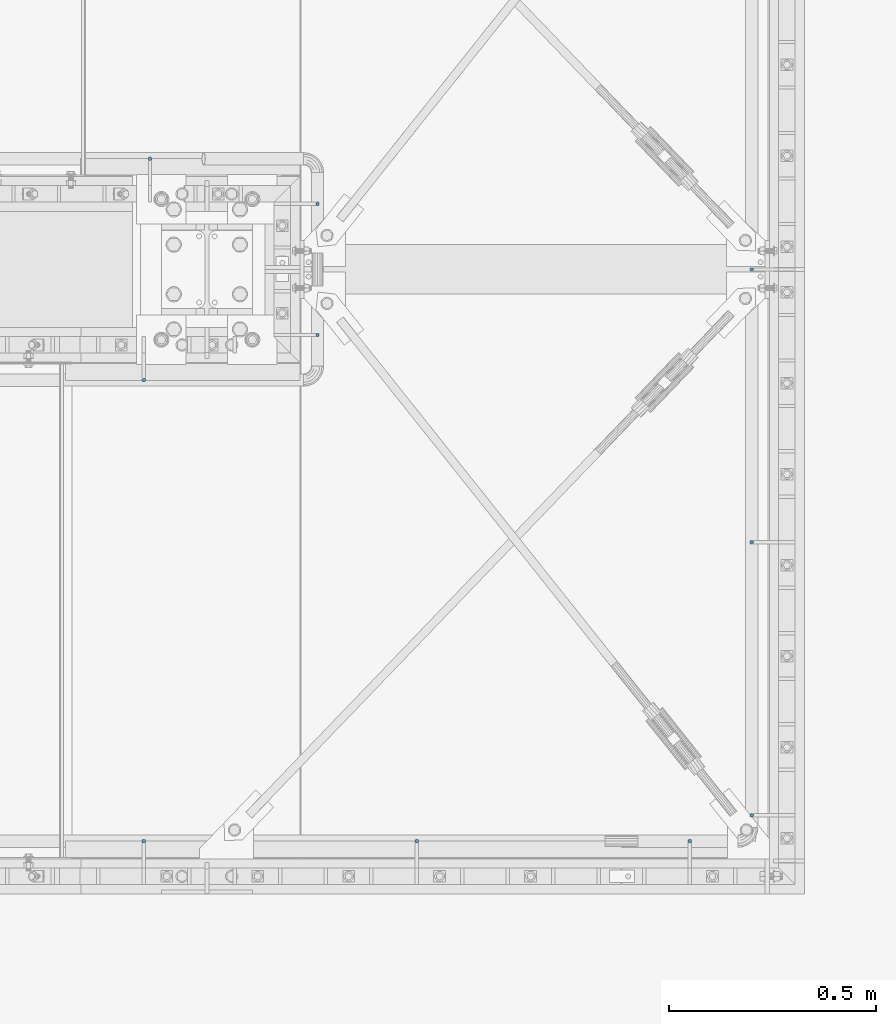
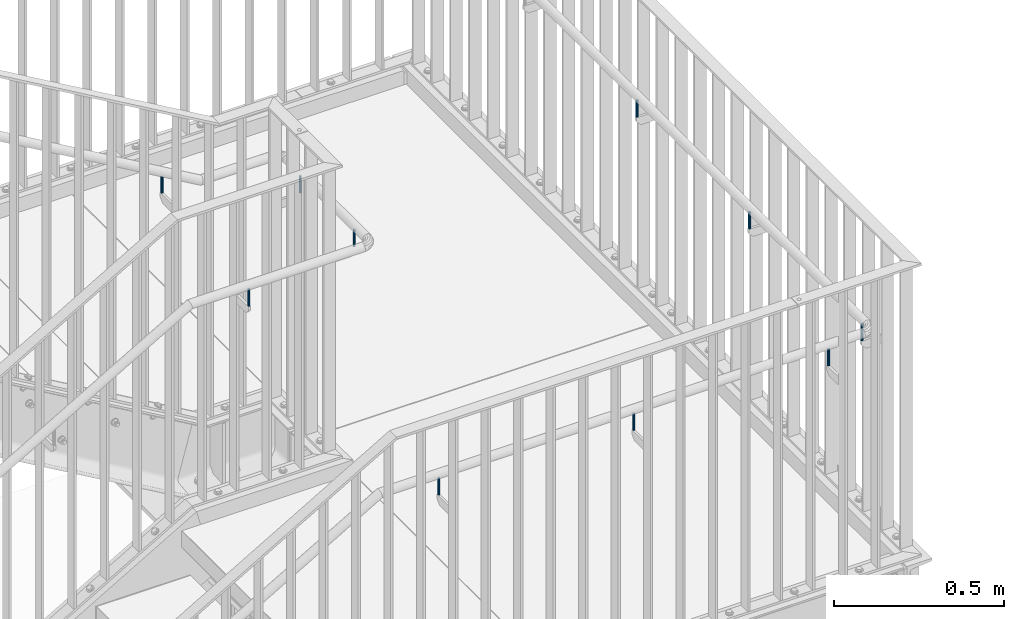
# One storey, part 9 of 145: 10 columns, 1 opening.
"""IFC2X3 building model written with IfcOpenShell, lengths in millimetres."""

from ifc_helpers import new_model, entity, si_unit, converted_unit, frame, origin, origin_with_axes, origin_2d, place, context, project, spatial, polyline, circle, outline, extrude, material, element, save


model = new_model("IFC2X3")

# Units and contexts
model_context = context("Model", 3, precision=1e-09, world=origin_with_axes())
ifc_project = project(units=[si_unit("LENGTHUNIT", "METRE", prefix="MILLI"), si_unit("AREAUNIT", "SQUARE_METRE"), si_unit("VOLUMEUNIT", "CUBIC_METRE"), converted_unit("PLANEANGLEUNIT", "DEGREE", entity("IfcPlaneAngleMeasure", 0.01745329), si_unit("PLANEANGLEUNIT", "RADIAN"), dimensions=[0, 0, 0, 0, 0, 0, 0])], contexts=[model_context])

# Site, building, storey
site_placement = place(None, origin_with_axes())
site = spatial("IfcSite", under=ifc_project, at=site_placement, Name="BZ1 Grund- und Mittelschule 85716 Unterschlei?heim", CompositionType="ELEMENT")
building_placement = place(site_placement, origin_with_axes())
building = spatial("IfcBuilding", under=site, at=building_placement, Name="Struktur 1", CompositionType="ELEMENT")
storey_placement = place(building_placement, origin_with_axes())
storey = spatial("IfcBuildingStorey", under=building, at=storey_placement, Name="Default Storey", CompositionType="ELEMENT", Elevation=0.0)

# Columns
ifc_material = material(Name="1.4301")
column_1_placement = place(None, frame((20058.545893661, -1962.502, 2323.636364), z_axis=(0.0, 0.0, 1.0), x_axis=(0.0, 1.0, 0.0)))
element("IfcColumn", 1, at=column_1_placement, inside=storey, material=ifc_material, Name="-", ObjectType="-", context=model_context, shape_type="SweptSolid", body=[
    extrude(circle(Radius=4.0, at=origin_2d()), origin(), (0.0, 0.0, 1.0), 60.0),
])
column_2_placement = place(None, frame((20718.545893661, -3077.502, 2323.636364), z_axis=(0.0, 0.0, -1.0), x_axis=(0.0, -1.0, 0.0)))
element("IfcColumn", 2, at=column_2_placement, inside=storey, material=ifc_material, Name="-", ObjectType="-", context=model_context, shape_type="SweptSolid", body=[
    extrude(circle(Radius=4.0, at=origin_2d()), origin(), (0.0, 0.0, -1.0), 60.0),
])

# Column, opening
column_3_placement = place(None, frame((20073.141490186, -1427.506106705, 2399.180800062), z_axis=(0.0, 0.0, 1.0), x_axis=(0.0, -1.0, 0.0)))
column_3 = element("IfcColumn", 3, at=column_3_placement, inside=storey, material=ifc_material, Name="-", ObjectType="-", context=model_context, shape_type="SweptSolid", body=[
    extrude(circle(Radius=4.0, at=origin_2d()), origin(), (0.0, 0.0, 1.0), 60.0),
])
opening_placement = place(column_3_placement, frame((-104.1, 13.305390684, 49.935677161), z_axis=(-1.0, 0.0, 0.0), x_axis=(0.0, -0.864466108, 0.502691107)))
element("IfcOpeningElement", 4, at=opening_placement, cuts=column_3, ObjectType="Opening", context=model_context, shape_type="SweptSolid", body=[
    extrude(outline(polyline([(0.0, 0.0), (33.862833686, 0.0), (4.378771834, 17.145120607), (0.0, 0.0)])), origin(), (0.0, 0.0, -1.0), 208.2),
])

# Columns
for number, where, z_axis, x_axis in (
    (5, (20478.34472732, -1536.502, 2323.636364), (0.0, 0.0, 1.0), (-1.0, 0.0, 0.0)),
    (6, (20478.34472732, -1853.502, 2323.636364), (0.0, 0.0, 1.0), (-1.0, 0.0, 0.0)),
):
    element("IfcColumn", number, at=place(None, frame(where, z_axis=z_axis, x_axis=x_axis)), inside=storey, material=ifc_material, Name="-", ObjectType="-", context=model_context, shape_type="SweptSolid", body=[
        extrude(circle(Radius=4.0, at=origin_2d()), origin(), (0.0, 0.0, 1.0), 60.0),
    ])
for number, where, z_axis, x_axis in (
    (7, (21528.34472732, -1695.002, 2323.636364), (0.0, 0.0, -1.0), (1.0, 0.0, 0.0)),
    (8, (21528.34472732, -2355.002, 2323.636364), (0.0, 0.0, -1.0), (1.0, 0.0, 0.0)),
    (9, (21528.34472732, -3015.002, 2323.636364), (0.0, 0.0, -1.0), (1.0, 0.0, 0.0)),
    (10, (21378.545893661, -3077.502, 2323.636364), (0.0, 0.0, -1.0), (0.0, -1.0, 0.0)),
    (11, (20058.545893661, -3077.502, 2323.636364), (0.0, 0.0, -1.0), (0.0, -1.0, 0.0)),
):
    element("IfcColumn", number, at=place(None, frame(where, z_axis=z_axis, x_axis=x_axis)), inside=storey, material=ifc_material, Name="-", ObjectType="-", context=model_context, shape_type="SweptSolid", body=[
        extrude(circle(Radius=4.0, at=origin_2d()), origin(), (0.0, 0.0, -1.0), 60.0),
    ])

save(model, "model.ifc")
